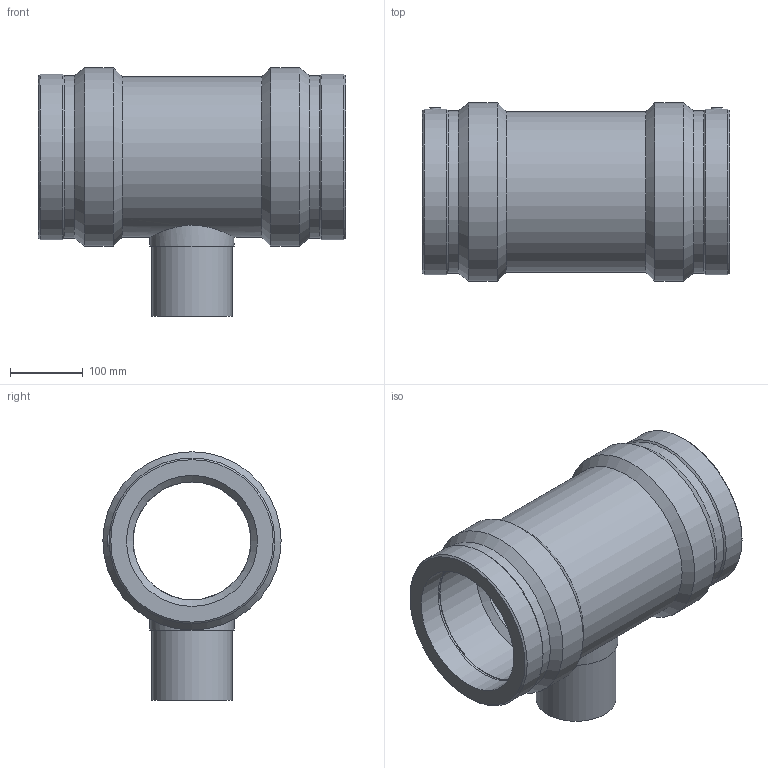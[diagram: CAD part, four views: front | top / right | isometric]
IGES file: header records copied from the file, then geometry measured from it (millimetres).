
Global section: file name: 491404180110.ipt; native system: Autodesk Inventor 2015; preprocessor: unknown; author: KIM; date: 20171106.093858; units: millimetre
Bounding box: 422 x 245 x 341.5 mm (x, y, z)
Volume: 7728546.6 mm3; surface area: 646046.1 mm2
Topology: 1 solids, 1 shells, 45 faces, 101 edges, 66 vertices
Faces by surface type: plane 12, revolution 12, cylinder 11, cone 10
Full cylindrical faces by diameter (mm): 4 x2, 110 x1, 115.5 x1, 220.5 x1, 223.293 x2, 227.85 x2, 245 x2
